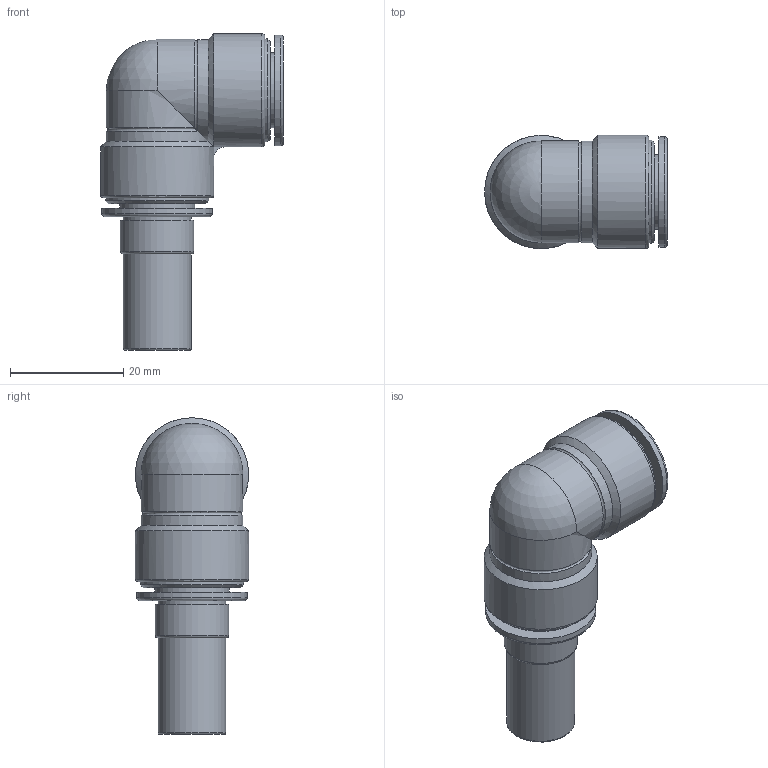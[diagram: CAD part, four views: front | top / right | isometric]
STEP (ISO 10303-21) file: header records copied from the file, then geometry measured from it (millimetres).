
FILE_DESCRIPTION((''),'2;1');
FILE_NAME('E:\2012年度板ﾃﾞｰﾀ\CHIYODA 3D-CAD DATA (Inventor 11)\TOUCH CONNECTOR FIVE (Inventor 11)\[22] L CONNECTOR\[05] FR12-00LC FR12-00LCW.stp','2012-03-21T16:34:59',('kazuhiro.t'),(''),'Autodesk Inventor 11','Autodesk Inventor 11','');
FILE_SCHEMA(('AUTOMOTIVE_DESIGN { 1 0 10303 214 1 1 1 1 }'));
Length unit declared in the file: millimetre
Products named in the file (1): [05] FR12-00LC FR12-00LCW
Bounding box: 32.3 x 20 x 55.9 mm (x, y, z)
Volume: 10751.4 mm3; surface area: 6443 mm2
Topology: 1 solids, 1 shells, 49 faces, 99 edges, 61 vertices
Faces by surface type: cylinder 14, plane 13, bspline 12, torus 6, cone 3, sphere 1
Full cylindrical faces by diameter (mm): 9 x1, 12 x2, 13 x1, 13.2 x2, 18.2 x2, 19.5 x2, 20 x1
Entity records: 1412 total; most frequent: CARTESIAN_POINT 472, DIRECTION 196, ORIENTED_EDGE 152, AXIS2_PLACEMENT_3D 90, EDGE_LOOP 80, EDGE_CURVE 76, VERTEX_POINT 60, FACE_OUTER_BOUND 49
